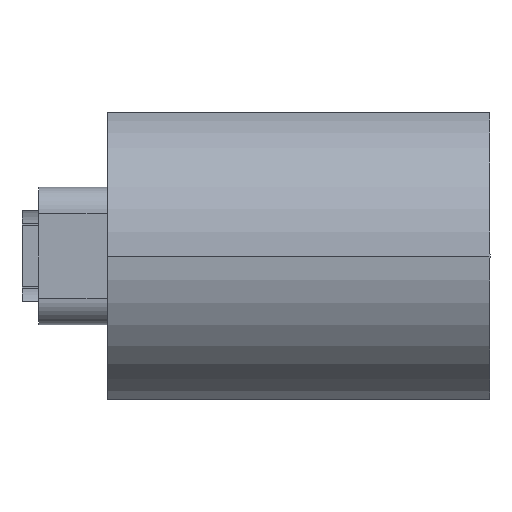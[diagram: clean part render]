
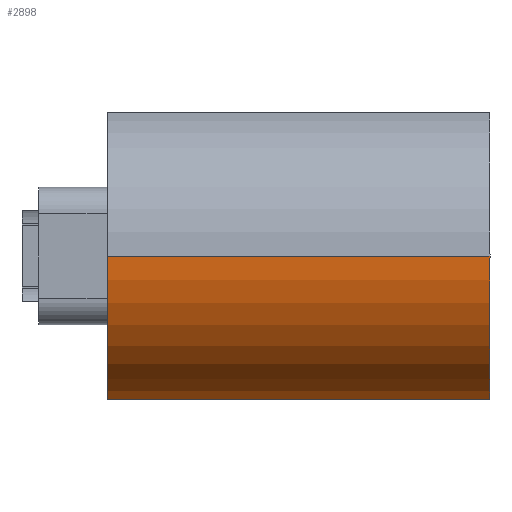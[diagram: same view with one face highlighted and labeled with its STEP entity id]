
A CAD part, front view. The second image highlights one B-rep face of the part: STEP entity #2898.
In plain terms, the highlighted cylindrical face has radius 19.5 mm (diameter 39 mm), a partial arc.
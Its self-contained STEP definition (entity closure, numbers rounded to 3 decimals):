
#15 = LINE ( 'NONE', #1929, #18 ) ;
#18 = VECTOR ( 'NONE', #1925, 1000. ) ;
#153 = CIRCLE ( 'NONE', #1111, 19.5 ) ;
#246 = CIRCLE ( 'NONE', #1079, 19.5 ) ;
#453 = VERTEX_POINT ( 'NONE', #1552 ) ;
#507 = ORIENTED_EDGE ( 'NONE', *, *, #895, .F. ) ;
#533 = VERTEX_POINT ( 'NONE', #1562 ) ;
#567 = VERTEX_POINT ( 'NONE', #1701 ) ;
#577 = ORIENTED_EDGE ( 'NONE', *, *, #964, .F. ) ;
#583 = VERTEX_POINT ( 'NONE', #1590 ) ;
#628 = ORIENTED_EDGE ( 'NONE', *, *, #974, .F. ) ;
#652 = ORIENTED_EDGE ( 'NONE', *, *, #1055, .T. ) ;
#767 = EDGE_LOOP ( 'NONE', ( #577, #652, #507, #628 ) ) ;
#815 = LINE ( 'NONE', #1888, #818 ) ;
#818 = VECTOR ( 'NONE', #1625, 1000. ) ;
#895 = EDGE_CURVE ( 'NONE', #453, #583, #246, .T. ) ;
#964 = EDGE_CURVE ( 'NONE', #567, #533, #153, .T. ) ;
#974 = EDGE_CURVE ( 'NONE', #533, #453, #15, .T. ) ;
#1055 = EDGE_CURVE ( 'NONE', #567, #583, #815, .T. ) ;
#1079 = AXIS2_PLACEMENT_3D ( 'NONE', #2094, #2083, #2082 ) ;
#1111 = AXIS2_PLACEMENT_3D ( 'NONE', #2077, #1826, #1889 ) ;
#1208 = AXIS2_PLACEMENT_3D ( 'NONE', #2035, #2113, #2123 ) ;
#1340 = CYLINDRICAL_SURFACE ( 'NONE', #1208, 19.5 ) ;
#1368 = FACE_OUTER_BOUND ( 'NONE', #767, .T. ) ;
#1552 = CARTESIAN_POINT ( 'NONE',  ( 0., -5.356, -18.75 ) ) ;
#1562 = CARTESIAN_POINT ( 'NONE',  ( 50., -5.356, -18.75 ) ) ;
#1590 = CARTESIAN_POINT ( 'NONE',  ( 0., -19.5, 0. ) ) ;
#1625 = DIRECTION ( 'NONE',  ( -1., 0., 0. ) ) ;
#1701 = CARTESIAN_POINT ( 'NONE',  ( 50., -19.5, 0. ) ) ;
#1826 = DIRECTION ( 'NONE',  ( 1., 0., 0. ) ) ;
#1888 = CARTESIAN_POINT ( 'NONE',  ( 50., -19.5, 0. ) ) ;
#1889 = DIRECTION ( 'NONE',  ( 0., -1., 0. ) ) ;
#1925 = DIRECTION ( 'NONE',  ( -1., 0., 0. ) ) ;
#1929 = CARTESIAN_POINT ( 'NONE',  ( 0., -5.356, -18.75 ) ) ;
#2035 = CARTESIAN_POINT ( 'NONE',  ( 50., 0., 0. ) ) ;
#2077 = CARTESIAN_POINT ( 'NONE',  ( 50., 0., 0. ) ) ;
#2082 = DIRECTION ( 'NONE',  ( 0., -1., 0. ) ) ;
#2083 = DIRECTION ( 'NONE',  ( -1., 0., 0. ) ) ;
#2094 = CARTESIAN_POINT ( 'NONE',  ( 0., 0., 0. ) ) ;
#2113 = DIRECTION ( 'NONE',  ( -1., 0., 0. ) ) ;
#2123 = DIRECTION ( 'NONE',  ( 0., -1., 0. ) ) ;
#2898 = ADVANCED_FACE ( 'NONE', ( #1368 ), #1340, .T. ) ;
